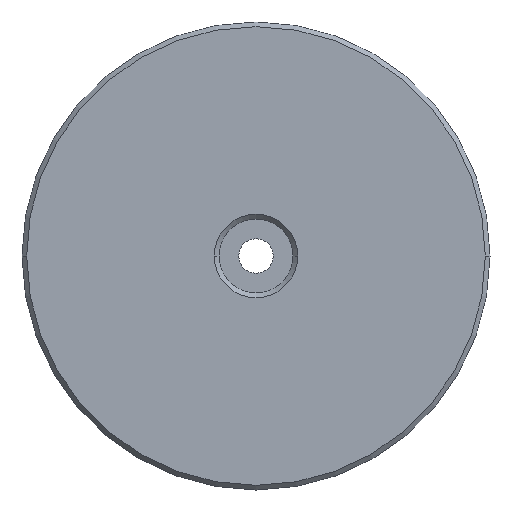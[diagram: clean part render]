
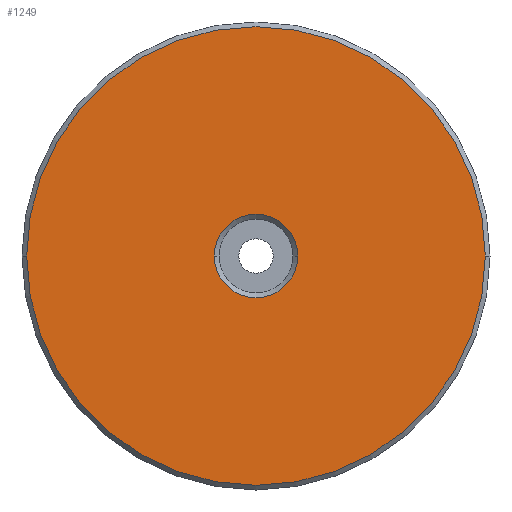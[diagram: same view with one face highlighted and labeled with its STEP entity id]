
A CAD part, front view. The second image highlights one B-rep face of the part: STEP entity #1249.
In plain terms, the highlighted planar face has unit normal (0, -1, 0).
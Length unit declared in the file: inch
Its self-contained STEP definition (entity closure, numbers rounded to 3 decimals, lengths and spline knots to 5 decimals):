
#77=CARTESIAN_POINT('',(0.,-0.125,0.));
#78=DIRECTION('',(0.,1.,0.));
#79=DIRECTION('',(1.,0.,0.));
#80=AXIS2_PLACEMENT_3D('',#77,#78,#79);
#82=CARTESIAN_POINT('',(0.,-0.125,0.));
#83=DIRECTION('',(0.,1.,0.));
#84=DIRECTION('',(-1.,0.,0.));
#85=AXIS2_PLACEMENT_3D('',#82,#83,#84);
#87=CARTESIAN_POINT('',(0.,-0.125,0.));
#88=DIRECTION('',(0.,-1.,0.));
#89=DIRECTION('',(1.,0.,0.));
#90=AXIS2_PLACEMENT_3D('',#87,#88,#89);
#92=CARTESIAN_POINT('',(0.,-0.125,0.));
#93=DIRECTION('',(0.,-1.,0.));
#94=DIRECTION('',(-1.,0.,0.));
#95=AXIS2_PLACEMENT_3D('',#92,#93,#94);
#1075=CARTESIAN_POINT('',(0.1335,-0.125,0.));
#1076=CARTESIAN_POINT('',(-0.1335,-0.125,0.));
#1077=VERTEX_POINT('',#1075);
#1078=VERTEX_POINT('',#1076);
#1083=CARTESIAN_POINT('',(0.735,-0.125,0.));
#1084=CARTESIAN_POINT('',(-0.735,-0.125,0.));
#1085=VERTEX_POINT('',#1083);
#1086=VERTEX_POINT('',#1084);
#1233=CARTESIAN_POINT('',(0.,-0.125,0.));
#1234=DIRECTION('',(0.,1.,0.));
#1235=DIRECTION('',(1.,0.,0.));
#1236=AXIS2_PLACEMENT_3D('',#1233,#1234,#1235);
#1237=PLANE('',#1236);
#1239=ORIENTED_EDGE('',*,*,#1238,.F.);
#1240=ORIENTED_EDGE('',*,*,#1223,.F.);
#1241=EDGE_LOOP('',(#1239,#1240));
#1242=FACE_OUTER_BOUND('',#1241,.F.);
#1244=ORIENTED_EDGE('',*,*,#1243,.F.);
#1246=ORIENTED_EDGE('',*,*,#1245,.F.);
#1247=EDGE_LOOP('',(#1244,#1246));
#1248=FACE_BOUND('',#1247,.F.);
#1249=ADVANCED_FACE('',(#1242,#1248),#1237,.F.);
#81=CIRCLE('',#80,0.1335);
#86=CIRCLE('',#85,0.1335);
#91=CIRCLE('',#90,0.735);
#96=CIRCLE('',#95,0.735);
#1223=EDGE_CURVE('',#1086,#1085,#96,.T.);
#1238=EDGE_CURVE('',#1085,#1086,#91,.T.);
#1243=EDGE_CURVE('',#1077,#1078,#81,.T.);
#1245=EDGE_CURVE('',#1078,#1077,#86,.T.);
